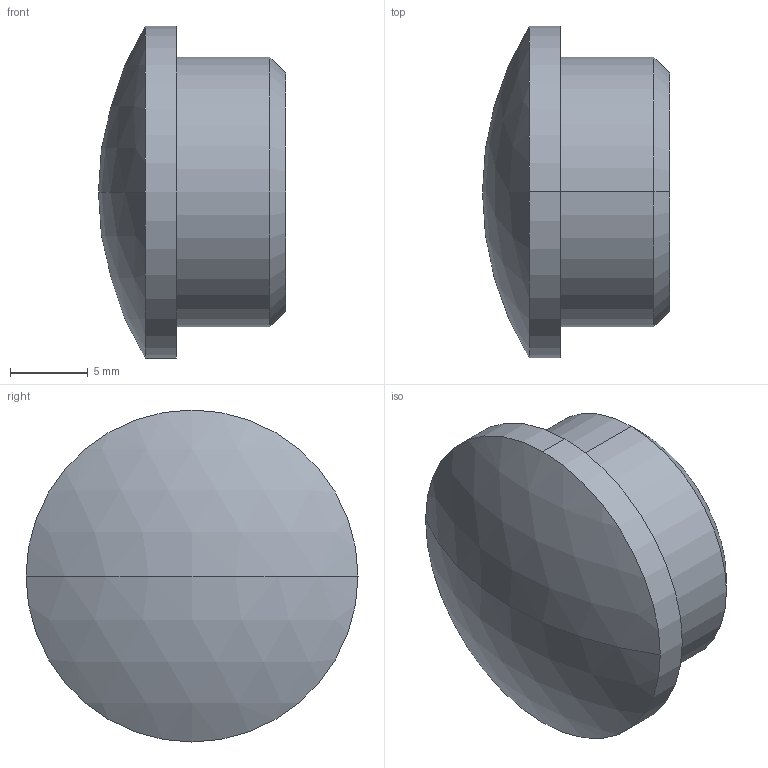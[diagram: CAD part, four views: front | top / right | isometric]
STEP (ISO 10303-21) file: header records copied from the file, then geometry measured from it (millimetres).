
FILE_DESCRIPTION (( 'STEP AP203' ), '1' );
FILE_NAME ('3D_GR1392_DN21.3x2_18380100.STEP', '2024-09-21T10:12:48', ( '' ), ( '' ), 'SwSTEP 2.0', 'SolidWorks 2024', '' );
FILE_SCHEMA (( 'CONFIG_CONTROL_DESIGN' ));
Length unit declared in the file: millimetre
Products named in the file (1): 3D_GR1392_DN21.3x2_18380100
Bounding box: 12 x 21.3 x 21.3 mm (x, y, z)
Volume: 2880.6 mm3; surface area: 1222.1 mm2
Topology: 1 solids, 1 shells, 10 faces, 20 edges, 13 vertices
Faces by surface type: cylinder 4, cone 2, sphere 2, plane 2
Entity records: 347 total; most frequent: DIRECTION 56, CARTESIAN_POINT 44, ORIENTED_EDGE 40, AXIS2_PLACEMENT_3D 25, EDGE_CURVE 20, CIRCLE 14, VERTEX_POINT 13, EDGE_LOOP 11
